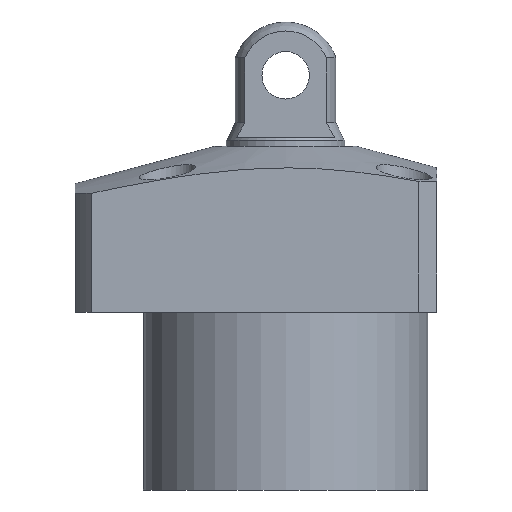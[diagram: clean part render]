
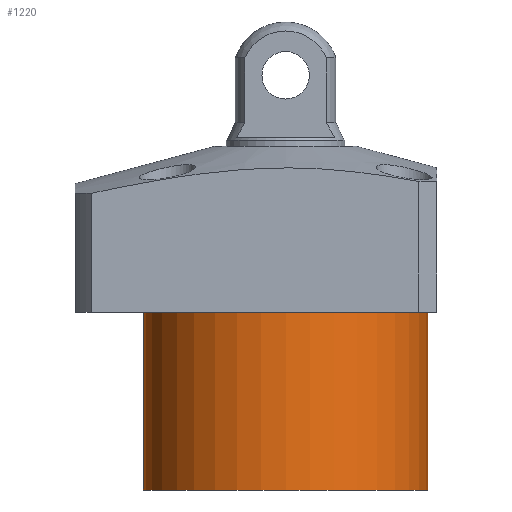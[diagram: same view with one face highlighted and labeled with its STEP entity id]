
A CAD part, front view. The second image highlights one B-rep face of the part: STEP entity #1220.
In plain terms, the highlighted cylindrical face has radius 24 mm (diameter 48 mm), a partial arc.
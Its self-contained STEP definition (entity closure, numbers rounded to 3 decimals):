
#7 = CARTESIAN_POINT ( 'NONE',  ( 0., 0., -44. ) ) ;
#45 = EDGE_CURVE ( 'NONE', #803, #533, #751, .T. ) ;
#127 = DIRECTION ( 'NONE',  ( 1., 0., 0. ) ) ;
#154 = CARTESIAN_POINT ( 'NONE',  ( 0., 0., -14. ) ) ;
#181 = AXIS2_PLACEMENT_3D ( 'NONE', #752, #717, #902 ) ;
#240 = VERTEX_POINT ( 'NONE', #1752 ) ;
#309 = CARTESIAN_POINT ( 'NONE',  ( -24., 0., -14. ) ) ;
#357 = DIRECTION ( 'NONE',  ( 0., 0., 1. ) ) ;
#533 = VERTEX_POINT ( 'NONE', #309 ) ;
#547 = LINE ( 'NONE', #2359, #2050 ) ;
#717 = DIRECTION ( 'NONE',  ( 0., 0., -1. ) ) ;
#751 = CIRCLE ( 'NONE', #1064, 24. ) ;
#752 = CARTESIAN_POINT ( 'NONE',  ( 0., 0., -44. ) ) ;
#803 = VERTEX_POINT ( 'NONE', #999 ) ;
#863 = EDGE_LOOP ( 'NONE', ( #1765, #2186, #1915, #1339 ) ) ;
#902 = DIRECTION ( 'NONE',  ( -1., 0., 0. ) ) ;
#999 = CARTESIAN_POINT ( 'NONE',  ( 24., 0., -14. ) ) ;
#1064 = AXIS2_PLACEMENT_3D ( 'NONE', #154, #2304, #127 ) ;
#1080 = DIRECTION ( 'NONE',  ( 1., 0., 0. ) ) ;
#1100 = LINE ( 'NONE', #1674, #2245 ) ;
#1220 = ADVANCED_FACE ( 'NONE', ( #1346 ), #2328, .T. ) ;
#1253 = EDGE_CURVE ( 'NONE', #240, #1746, #1884, .T. ) ;
#1339 = ORIENTED_EDGE ( 'NONE', *, *, #45, .T. ) ;
#1346 = FACE_OUTER_BOUND ( 'NONE', #863, .T. ) ;
#1488 = DIRECTION ( 'NONE',  ( 0., 0., 1. ) ) ;
#1662 = EDGE_CURVE ( 'NONE', #240, #803, #547, .T. ) ;
#1674 = CARTESIAN_POINT ( 'NONE',  ( -24., 0., -44. ) ) ;
#1678 = AXIS2_PLACEMENT_3D ( 'NONE', #7, #357, #1080 ) ;
#1722 = EDGE_CURVE ( 'NONE', #1746, #533, #1100, .T. ) ;
#1746 = VERTEX_POINT ( 'NONE', #2244 ) ;
#1752 = CARTESIAN_POINT ( 'NONE',  ( 24., 0., -44. ) ) ;
#1765 = ORIENTED_EDGE ( 'NONE', *, *, #1722, .F. ) ;
#1822 = DIRECTION ( 'NONE',  ( 0., 0., 1. ) ) ;
#1884 = CIRCLE ( 'NONE', #181, 24. ) ;
#1915 = ORIENTED_EDGE ( 'NONE', *, *, #1662, .T. ) ;
#2050 = VECTOR ( 'NONE', #1822, 1000. ) ;
#2186 = ORIENTED_EDGE ( 'NONE', *, *, #1253, .F. ) ;
#2244 = CARTESIAN_POINT ( 'NONE',  ( -24., 0., -44. ) ) ;
#2245 = VECTOR ( 'NONE', #1488, 1000. ) ;
#2304 = DIRECTION ( 'NONE',  ( 0., 0., -1. ) ) ;
#2328 = CYLINDRICAL_SURFACE ( 'NONE', #1678, 24. ) ;
#2359 = CARTESIAN_POINT ( 'NONE',  ( 24., 0., -44. ) ) ;
